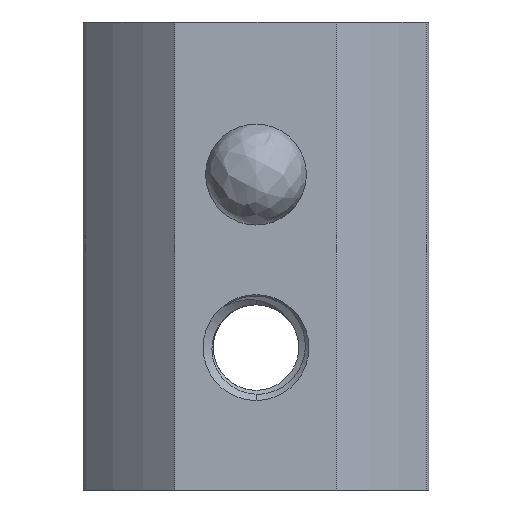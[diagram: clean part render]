
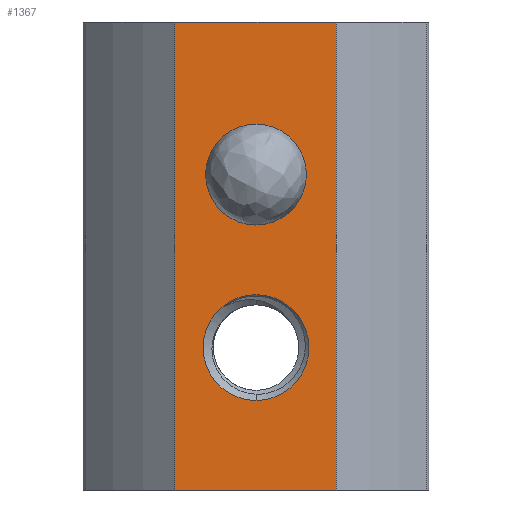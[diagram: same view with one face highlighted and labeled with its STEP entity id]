
A CAD part, front view. The second image highlights one B-rep face of the part: STEP entity #1367.
In plain terms, the highlighted planar face has unit normal (0, -1, 0).
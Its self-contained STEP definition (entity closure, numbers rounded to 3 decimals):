
#30 = ORIENTED_EDGE ( 'NONE', *, *, #3542, .T. ) ;
#118 = DIRECTION ( 'NONE',  ( 1., 0., 0. ) ) ;
#153 = LINE ( 'NONE', #174, #3550 ) ;
#174 = CARTESIAN_POINT ( 'NONE',  ( -4., -9.6, 23. ) ) ;
#267 = ORIENTED_EDGE ( 'NONE', *, *, #3852, .T. ) ;
#282 = CARTESIAN_POINT ( 'NONE',  ( 0., -9.6, 7. ) ) ;
#366 = DIRECTION ( 'NONE',  ( 1., 0., 0. ) ) ;
#459 = CARTESIAN_POINT ( 'NONE',  ( 0., -9.6, 15.5 ) ) ;
#472 = DIRECTION ( 'NONE',  ( 0., 0., -1. ) ) ;
#479 = DIRECTION ( 'NONE',  ( 0., 0., 1. ) ) ;
#567 = CARTESIAN_POINT ( 'NONE',  ( -4., -9.6, 23. ) ) ;
#609 = VECTOR ( 'NONE', #621, 1000. ) ;
#621 = DIRECTION ( 'NONE',  ( 0., 0., 1. ) ) ;
#754 = AXIS2_PLACEMENT_3D ( 'NONE', #1749, #2051, #3967 ) ;
#758 = ORIENTED_EDGE ( 'NONE', *, *, #2050, .T. ) ;
#773 = EDGE_CURVE ( 'NONE', #3510, #4040, #1422, .T. ) ;
#836 = DIRECTION ( 'NONE',  ( 0., 0., 1. ) ) ;
#845 = VERTEX_POINT ( 'NONE', #567 ) ;
#852 = CARTESIAN_POINT ( 'NONE',  ( 3.95, -9.6, 0. ) ) ;
#870 = VERTEX_POINT ( 'NONE', #2117 ) ;
#894 = CARTESIAN_POINT ( 'NONE',  ( 0., -9.6, 4.4 ) ) ;
#950 = EDGE_CURVE ( 'NONE', #3608, #870, #1456, .T. ) ;
#1117 = FACE_OUTER_BOUND ( 'NONE', #2425, .T. ) ;
#1138 = CARTESIAN_POINT ( 'NONE',  ( 0., -9.6, 13.02 ) ) ;
#1161 = VERTEX_POINT ( 'NONE', #2457 ) ;
#1189 = EDGE_CURVE ( 'NONE', #870, #3608, #2312, .T. ) ;
#1200 = ORIENTED_EDGE ( 'NONE', *, *, #1395, .F. ) ;
#1212 = CARTESIAN_POINT ( 'NONE',  ( -4., -9.6, 0. ) ) ;
#1333 = VERTEX_POINT ( 'NONE', #852 ) ;
#1367 = ADVANCED_FACE ( 'NONE', ( #1743, #1117, #2043 ), #3275, .T. ) ;
#1395 = EDGE_CURVE ( 'NONE', #845, #1161, #153, .T. ) ;
#1422 = CIRCLE ( 'NONE', #1555, 2.48 ) ;
#1456 = CIRCLE ( 'NONE', #754, 2.6 ) ;
#1555 = AXIS2_PLACEMENT_3D ( 'NONE', #459, #3262, #479 ) ;
#1581 = LINE ( 'NONE', #1924, #2219 ) ;
#1698 = VERTEX_POINT ( 'NONE', #1857 ) ;
#1743 = FACE_BOUND ( 'NONE', #2640, .T. ) ;
#1749 = CARTESIAN_POINT ( 'NONE',  ( 0., -9.6, 7. ) ) ;
#1826 = LINE ( 'NONE', #1212, #3456 ) ;
#1857 = CARTESIAN_POINT ( 'NONE',  ( -4., -9.6, 0. ) ) ;
#1924 = CARTESIAN_POINT ( 'NONE',  ( 3.95, -9.6, 0. ) ) ;
#2043 = FACE_BOUND ( 'NONE', #3815, .T. ) ;
#2050 = EDGE_CURVE ( 'NONE', #1333, #1161, #3437, .T. ) ;
#2051 = DIRECTION ( 'NONE',  ( 0., 1., 0. ) ) ;
#2069 = DIRECTION ( 'NONE',  ( 0., 0., -1. ) ) ;
#2117 = CARTESIAN_POINT ( 'NONE',  ( 0., -9.6, 9.6 ) ) ;
#2194 = AXIS2_PLACEMENT_3D ( 'NONE', #3623, #3845, #836 ) ;
#2219 = VECTOR ( 'NONE', #366, 1000. ) ;
#2226 = ORIENTED_EDGE ( 'NONE', *, *, #3579, .T. ) ;
#2312 = CIRCLE ( 'NONE', #2958, 2.6 ) ;
#2328 = CARTESIAN_POINT ( 'NONE',  ( 0., -9.6, 17.98 ) ) ;
#2425 = EDGE_LOOP ( 'NONE', ( #267, #758, #1200, #2226 ) ) ;
#2457 = CARTESIAN_POINT ( 'NONE',  ( 3.95, -9.6, 23. ) ) ;
#2640 = EDGE_LOOP ( 'NONE', ( #3427, #2746 ) ) ;
#2746 = ORIENTED_EDGE ( 'NONE', *, *, #1189, .T. ) ;
#2859 = CARTESIAN_POINT ( 'NONE',  ( 3.95, -9.6, 0. ) ) ;
#2923 = DIRECTION ( 'NONE',  ( 0., -1., 0. ) ) ;
#2958 = AXIS2_PLACEMENT_3D ( 'NONE', #282, #3840, #3822 ) ;
#3262 = DIRECTION ( 'NONE',  ( 0., 1., 0. ) ) ;
#3275 = PLANE ( 'NONE',  #3804 ) ;
#3332 = CARTESIAN_POINT ( 'NONE',  ( 3.95, -9.6, 0. ) ) ;
#3427 = ORIENTED_EDGE ( 'NONE', *, *, #950, .T. ) ;
#3437 = LINE ( 'NONE', #2859, #609 ) ;
#3456 = VECTOR ( 'NONE', #2069, 1000. ) ;
#3510 = VERTEX_POINT ( 'NONE', #1138 ) ;
#3542 = EDGE_CURVE ( 'NONE', #4040, #3510, #3943, .T. ) ;
#3550 = VECTOR ( 'NONE', #118, 1000. ) ;
#3579 = EDGE_CURVE ( 'NONE', #845, #1698, #1826, .T. ) ;
#3608 = VERTEX_POINT ( 'NONE', #894 ) ;
#3623 = CARTESIAN_POINT ( 'NONE',  ( 0., -9.6, 15.5 ) ) ;
#3659 = ORIENTED_EDGE ( 'NONE', *, *, #773, .T. ) ;
#3804 = AXIS2_PLACEMENT_3D ( 'NONE', #3332, #2923, #472 ) ;
#3815 = EDGE_LOOP ( 'NONE', ( #30, #3659 ) ) ;
#3822 = DIRECTION ( 'NONE',  ( 0., 0., -1. ) ) ;
#3840 = DIRECTION ( 'NONE',  ( 0., 1., 0. ) ) ;
#3845 = DIRECTION ( 'NONE',  ( 0., 1., 0. ) ) ;
#3852 = EDGE_CURVE ( 'NONE', #1698, #1333, #1581, .T. ) ;
#3943 = CIRCLE ( 'NONE', #2194, 2.48 ) ;
#3967 = DIRECTION ( 'NONE',  ( 0., 0., -1. ) ) ;
#4040 = VERTEX_POINT ( 'NONE', #2328 ) ;
